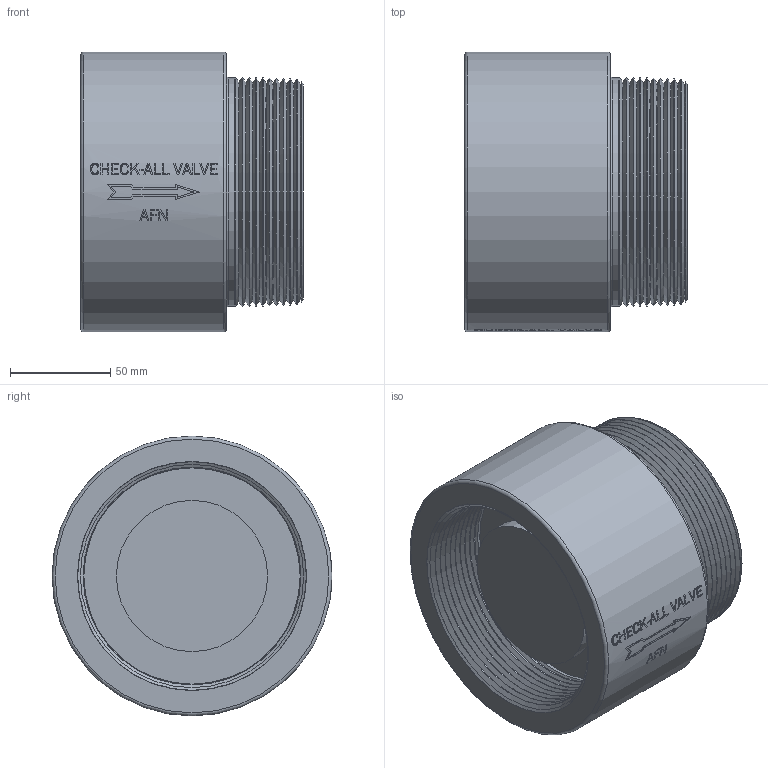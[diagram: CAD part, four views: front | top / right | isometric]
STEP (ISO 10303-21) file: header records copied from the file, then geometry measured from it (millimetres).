
FILE_DESCRIPTION(/* description */ ('Unknown'),/* implementation_level */ '2;1');
FILE_NAME(/* name */ 'AFNXXOR.500XX-WEB',/* time_stamp */ '2022-10-03T12:15:36-05:00',/* author */ ('Unknown'),/* organization */ ('Unknown'),/* preprocessor_version */ 'ST-DEVELOPER v18.102',/* originating_system */ 'Solid Edge',/* authorisation */ 'Unknown');
FILE_SCHEMA (('AUTOMOTIVE_DESIGN {1 0 10303 214 3 1 1}'));
Length unit declared in the file: inch
Products named in the file (1): AFNXXOR.500XX-WEB
Bounding box: 111.15 x 139.7 x 139.7 mm (x, y, z)
Volume: 1222423.8 mm3; surface area: 109922.6 mm2
Topology: 1 solids, 2 shells, 296 faces, 726 edges, 459 vertices
Faces by surface type: plane 162, cone 79, cylinder 42, torus 7, bspline 6
Full cylindrical faces by diameter (mm): 65.024 x1, 75.438 x1, 92.939 x1, 107.952 x5, 114.3 x3, 139.7 x1
Entity records: 12016 total; most frequent: CARTESIAN_POINT 3698, ORIENTED_EDGE 1222, DIRECTION 1186, EDGE_CURVE 611, AXIS2_PLACEMENT_3D 481, VERTEX_POINT 442, EDGE_LOOP 421, FACE_BOUND 421
